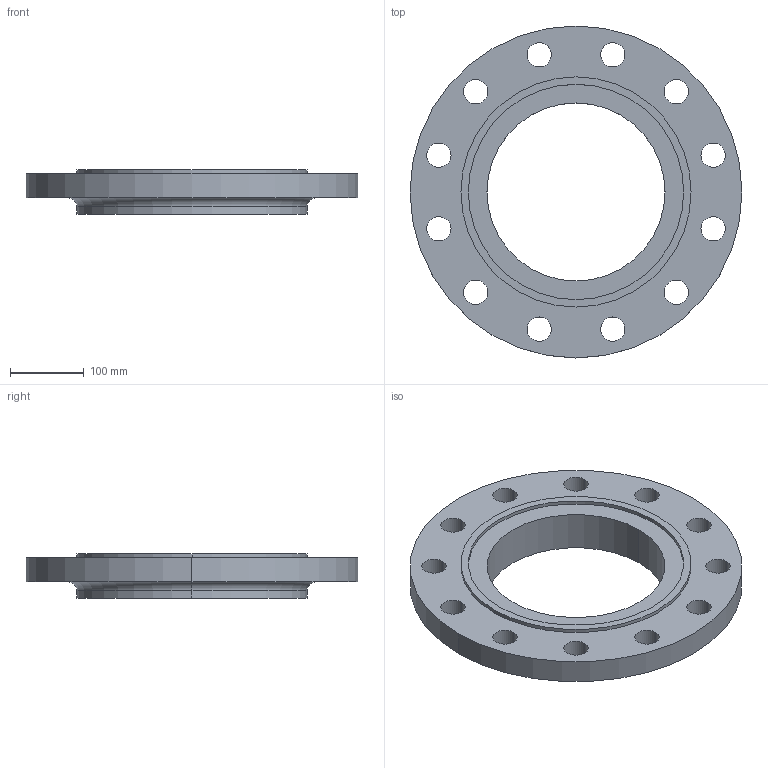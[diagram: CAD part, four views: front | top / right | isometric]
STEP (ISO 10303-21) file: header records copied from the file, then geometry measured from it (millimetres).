
FILE_DESCRIPTION (( 'STEP AP214' ), '1' );
FILE_NAME ('PN40 DN250 Type 13 - Type C Face.STEP', '2019-01-05T16:00:08', ( '' ), ( '' ), 'SwSTEP 2.0', 'SolidWorks 2019', '' );
FILE_SCHEMA (( 'AUTOMOTIVE_DESIGN' ));
Length unit declared in the file: millimetre
Products named in the file (1): PN40 DN250 Type 13 - Type C Face
Bounding box: 450 x 450 x 60 mm (x, y, z)
Volume: 4153953.9 mm3; surface area: 361542.8 mm2
Topology: 1 solids, 1 shells, 41 faces, 106 edges, 70 vertices
Faces by surface type: cylinder 34, plane 5, torus 2
Entity records: 1382 total; most frequent: DIRECTION 262, CARTESIAN_POINT 218, ORIENTED_EDGE 212, AXIS2_PLACEMENT_3D 114, EDGE_CURVE 106, CIRCLE 72, EDGE_LOOP 70, VERTEX_POINT 70
